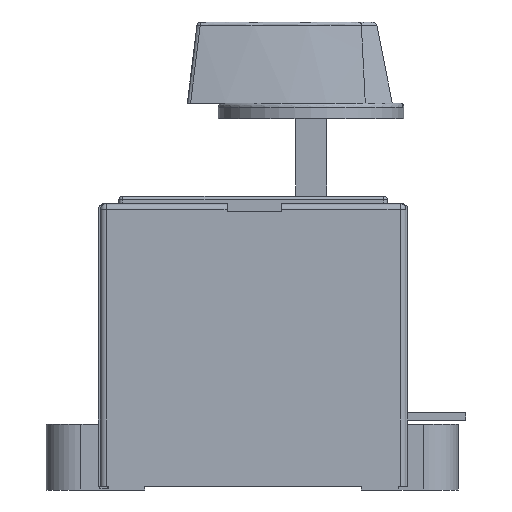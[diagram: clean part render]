
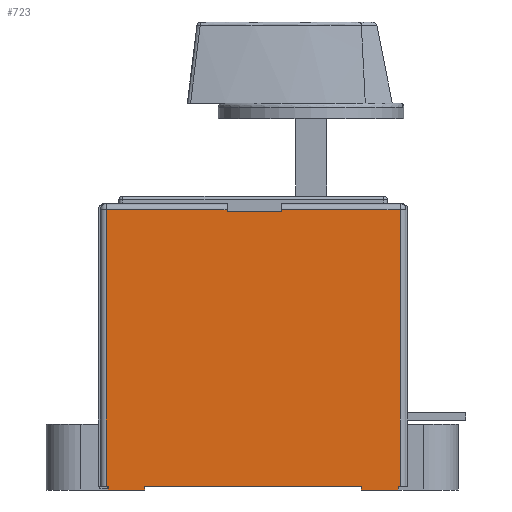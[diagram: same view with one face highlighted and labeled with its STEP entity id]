
A CAD part, left-side view. The second image highlights one B-rep face of the part: STEP entity #723.
In plain terms, the highlighted planar face has unit normal (-1, 0, 0).
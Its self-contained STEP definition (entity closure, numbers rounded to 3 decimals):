
#259=PLANE('',#7645);
#723=ADVANCED_FACE('',(#1209),#259,.F.);
#1209=FACE_OUTER_BOUND('',#1644,.T.);
#1644=EDGE_LOOP('',(#4690,#4691,#4692,#4693,#4694,#4695,#4696,#4697,#4698,
#4699,#4700,#4701,#4702,#4703,#4704,#4705));
#1986=LINE('',#10767,#2718);
#2035=LINE('',#10884,#2767);
#2037=LINE('',#10890,#2769);
#2116=LINE('',#11239,#2848);
#2133=LINE('',#11326,#2865);
#2177=LINE('',#11440,#2909);
#2182=LINE('',#11452,#2914);
#2184=LINE('',#11455,#2916);
#2190=LINE('',#11468,#2922);
#2356=LINE('',#11803,#3088);
#2362=LINE('',#11814,#3094);
#2363=LINE('',#11818,#3095);
#2364=LINE('',#11820,#3096);
#2365=LINE('',#11822,#3097);
#2366=LINE('',#11823,#3098);
#2367=LINE('',#11824,#3099);
#2718=VECTOR('',#8512,1.);
#2767=VECTOR('',#8597,1.);
#2769=VECTOR('',#8603,1.);
#2848=VECTOR('',#8920,1.);
#2865=VECTOR('',#9037,1.);
#2909=VECTOR('',#9155,1.);
#2914=VECTOR('',#9162,1.);
#2916=VECTOR('',#9166,1.);
#2922=VECTOR('',#9174,1.);
#3088=VECTOR('',#9470,1.);
#3094=VECTOR('',#9482,1.);
#3095=VECTOR('',#9487,1.);
#3096=VECTOR('',#9488,1.);
#3097=VECTOR('',#9489,1.);
#3098=VECTOR('',#9490,1.);
#3099=VECTOR('',#9491,1.);
#4690=ORIENTED_EDGE('',*,*,#6728,.F.);
#4691=ORIENTED_EDGE('',*,*,#6474,.T.);
#4692=ORIENTED_EDGE('',*,*,#6276,.T.);
#4693=ORIENTED_EDGE('',*,*,#6220,.F.);
#4694=ORIENTED_EDGE('',*,*,#6279,.T.);
#4695=ORIENTED_EDGE('',*,*,#6431,.T.);
#4696=ORIENTED_EDGE('',*,*,#6730,.T.);
#4697=ORIENTED_EDGE('',*,*,#6731,.T.);
#4698=ORIENTED_EDGE('',*,*,#6732,.F.);
#4699=ORIENTED_EDGE('',*,*,#6530,.F.);
#4700=ORIENTED_EDGE('',*,*,#6535,.T.);
#4701=ORIENTED_EDGE('',*,*,#6733,.T.);
#4702=ORIENTED_EDGE('',*,*,#6543,.F.);
#4703=ORIENTED_EDGE('',*,*,#6537,.F.);
#4704=ORIENTED_EDGE('',*,*,#6722,.T.);
#4705=ORIENTED_EDGE('',*,*,#6734,.T.);
#5465=VERTEX_POINT('',#10766);
#5466=VERTEX_POINT('',#10768);
#5512=VERTEX_POINT('',#10885);
#5514=VERTEX_POINT('',#10891);
#5621=VERTEX_POINT('',#11234);
#5622=VERTEX_POINT('',#11238);
#5676=VERTEX_POINT('',#11441);
#5677=VERTEX_POINT('',#11442);
#5681=VERTEX_POINT('',#11451);
#5682=VERTEX_POINT('',#11456);
#5683=VERTEX_POINT('',#11457);
#5686=VERTEX_POINT('',#11465);
#5791=VERTEX_POINT('',#11802);
#5794=VERTEX_POINT('',#11815);
#5795=VERTEX_POINT('',#11819);
#5796=VERTEX_POINT('',#11821);
#6220=EDGE_CURVE('',#5465,#5466,#1986,.T.);
#6276=EDGE_CURVE('',#5512,#5466,#2035,.T.);
#6279=EDGE_CURVE('',#5465,#5514,#2037,.T.);
#6431=EDGE_CURVE('',#5514,#5622,#2116,.T.);
#6474=EDGE_CURVE('',#5621,#5512,#2133,.T.);
#6530=EDGE_CURVE('',#5676,#5677,#2177,.T.);
#6535=EDGE_CURVE('',#5676,#5681,#2182,.T.);
#6537=EDGE_CURVE('',#5682,#5683,#2184,.T.);
#6543=EDGE_CURVE('',#5683,#5686,#2190,.T.);
#6722=EDGE_CURVE('',#5682,#5791,#2356,.T.);
#6728=EDGE_CURVE('',#5621,#5794,#2362,.T.);
#6730=EDGE_CURVE('',#5622,#5795,#2363,.T.);
#6731=EDGE_CURVE('',#5795,#5796,#2364,.T.);
#6732=EDGE_CURVE('',#5677,#5796,#2365,.T.);
#6733=EDGE_CURVE('',#5681,#5686,#2366,.T.);
#6734=EDGE_CURVE('',#5791,#5794,#2367,.T.);
#7645=AXIS2_PLACEMENT_3D('',#11825,#9492,#9493);
#8512=DIRECTION('',(0.,-1.,0.));
#8597=DIRECTION('',(0.,0.,-1.));
#8603=DIRECTION('',(0.,0.,1.));
#8920=DIRECTION('',(0.,1.,0.));
#9037=DIRECTION('',(0.,1.,0.));
#9155=DIRECTION('',(0.,1.,0.));
#9162=DIRECTION('',(0.,0.,1.));
#9166=DIRECTION('',(0.,1.,0.));
#9174=DIRECTION('',(0.,0.,1.));
#9470=DIRECTION('',(0.,0.,1.));
#9482=DIRECTION('',(0.,0.,-1.));
#9487=DIRECTION('',(0.,0.,-1.));
#9488=DIRECTION('',(0.,-1.,0.));
#9489=DIRECTION('',(0.,0.,1.));
#9490=DIRECTION('',(0.,-1.,0.));
#9491=DIRECTION('',(0.,-1.,0.));
#9492=DIRECTION('',(1.,0.,0.));
#9493=DIRECTION('',(0.,0.,-1.));
#10766=CARTESIAN_POINT('',(-69.,-17.985,67.));
#10767=CARTESIAN_POINT('',(-69.,12.765,67.));
#10768=CARTESIAN_POINT('',(-69.,-31.985,67.));
#10884=CARTESIAN_POINT('',(-69.,-31.985,69.1));
#10885=CARTESIAN_POINT('',(-69.,-31.985,67.6));
#10890=CARTESIAN_POINT('',(-69.,-17.985,69.1));
#10891=CARTESIAN_POINT('',(-69.,-17.985,67.6));
#11234=CARTESIAN_POINT('',(-69.,-62.735,67.6));
#11238=CARTESIAN_POINT('',(-69.,13.265,67.6));
#11239=CARTESIAN_POINT('',(-69.,13.265,67.6));
#11326=CARTESIAN_POINT('',(-69.,13.265,67.6));
#11440=CARTESIAN_POINT('',(-69.,3.265,-4.9));
#11441=CARTESIAN_POINT('',(-69.,3.265,-4.9));
#11442=CARTESIAN_POINT('',(-69.,12.765,-4.9));
#11451=CARTESIAN_POINT('',(-69.,3.265,-3.9));
#11452=CARTESIAN_POINT('',(-69.,3.265,-5.9));
#11455=CARTESIAN_POINT('',(-69.,-62.235,-4.9));
#11456=CARTESIAN_POINT('',(-69.,-62.235,-4.9));
#11457=CARTESIAN_POINT('',(-69.,-52.735,-4.9));
#11465=CARTESIAN_POINT('',(-69.,-52.735,-3.9));
#11468=CARTESIAN_POINT('',(-69.,-52.735,-5.9));
#11802=CARTESIAN_POINT('',(-69.,-62.235,-3.9));
#11803=CARTESIAN_POINT('',(-69.,-62.235,-5.9));
#11814=CARTESIAN_POINT('',(-69.,-62.735,69.1));
#11815=CARTESIAN_POINT('',(-69.,-62.735,-3.9));
#11818=CARTESIAN_POINT('',(-69.,13.265,69.1));
#11819=CARTESIAN_POINT('',(-69.,13.265,-3.9));
#11820=CARTESIAN_POINT('',(-69.,-62.235,-3.9));
#11821=CARTESIAN_POINT('',(-69.,12.765,-3.9));
#11822=CARTESIAN_POINT('',(-69.,12.765,-5.9));
#11823=CARTESIAN_POINT('',(-69.,-62.235,-3.9));
#11824=CARTESIAN_POINT('',(-69.,-62.235,-3.9));
#11825=CARTESIAN_POINT('',(-69.,-62.235,69.1));
